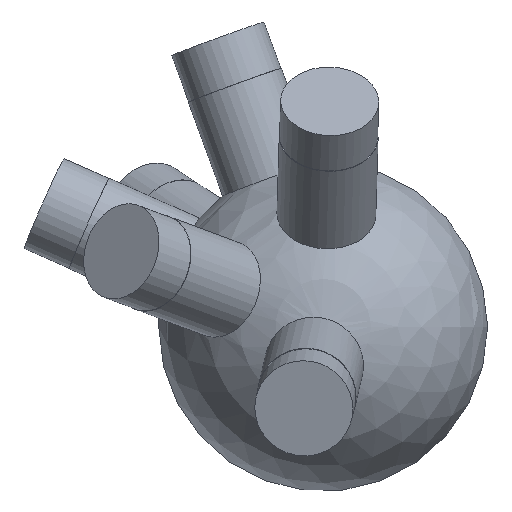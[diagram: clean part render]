
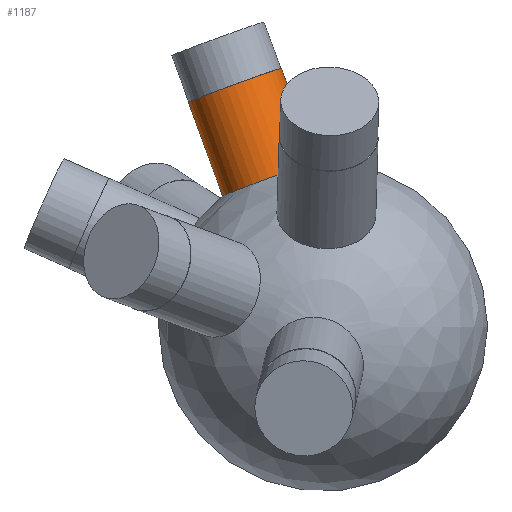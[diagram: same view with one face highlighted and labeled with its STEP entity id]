
A CAD part, top view. The second image highlights one B-rep face of the part: STEP entity #1187.
In plain terms, the highlighted cylindrical face has radius 6 mm (diameter 12 mm), a full revolution.
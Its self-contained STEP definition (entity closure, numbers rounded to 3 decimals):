
#33 = SPHERICAL_SURFACE('',#34,20.);
#34 = AXIS2_PLACEMENT_3D('',#35,#36,#37);
#35 = CARTESIAN_POINT('',(0.,0.,0.));
#36 = DIRECTION('',(0.,0.,1.));
#37 = DIRECTION('',(1.,0.,-0.));
#570 = EDGE_CURVE('',#571,#571,#573,.T.);
#571 = VERTEX_POINT('',#572);
#572 = CARTESIAN_POINT('',(-0.909,19.977,
    -0.308));
#573 = SURFACE_CURVE('',#574,(#579,#641),.PCURVE_S1.);
#574 = CIRCLE('',#575,6.);
#575 = AXIS2_PLACEMENT_3D('',#576,#577,#578);
#576 = CARTESIAN_POINT('',(-6.545,17.918,
    -0.308));
#577 = DIRECTION('',(-0.343,0.939,-0.016)
  );
#578 = DIRECTION('',(-0.939,-0.343,0.
    ));
#579 = PCURVE('',#33,#580);
#580 = DEFINITIONAL_REPRESENTATION('',(#581),#640);
#581 = B_SPLINE_CURVE_WITH_KNOTS('',8,(#582,#583,#584,#585,#586,#587,
    #588,#589,#590,#591,#592,#593,#594,#595,#596,#597,#598,#599,#600,
    #601,#602,#603,#604,#605,#606,#607,#608,#609,#610,#611,#612,#613,
    #614,#615,#616,#617,#618,#619,#620,#621,#622,#623,#624,#625,#626,
    #627,#628,#629,#630,#631,#632,#633,#634,#635,#636,#637,#638,#639),
  .UNSPECIFIED.,.F.,.F.,(9,7,7,7,7,7,7,7,9),(3.142,
    3.927,4.614,5.216,6.268,
    7.057,7.649,8.537,9.425),
  .UNSPECIFIED.);
#582 = CARTESIAN_POINT('',(1.616,-0.015));
#583 = CARTESIAN_POINT('',(1.616,-0.045));
#584 = CARTESIAN_POINT('',(1.619,-0.074));
#585 = CARTESIAN_POINT('',(1.625,-0.103));
#586 = CARTESIAN_POINT('',(1.635,-0.132));
#587 = CARTESIAN_POINT('',(1.647,-0.159));
#588 = CARTESIAN_POINT('',(1.662,-0.184));
#589 = CARTESIAN_POINT('',(1.681,-0.208));
#590 = CARTESIAN_POINT('',(1.72,-0.248));
#591 = CARTESIAN_POINT('',(1.74,-0.265));
#592 = CARTESIAN_POINT('',(1.762,-0.28));
#593 = CARTESIAN_POINT('',(1.785,-0.293));
#594 = CARTESIAN_POINT('',(1.81,-0.303));
#595 = CARTESIAN_POINT('',(1.836,-0.311));
#596 = CARTESIAN_POINT('',(1.863,-0.317));
#597 = CARTESIAN_POINT('',(1.914,-0.322));
#598 = CARTESIAN_POINT('',(1.938,-0.322));
#599 = CARTESIAN_POINT('',(1.961,-0.32));
#600 = CARTESIAN_POINT('',(1.985,-0.316));
#601 = CARTESIAN_POINT('',(2.008,-0.311));
#602 = CARTESIAN_POINT('',(2.03,-0.303));
#603 = CARTESIAN_POINT('',(2.052,-0.293));
#604 = CARTESIAN_POINT('',(2.108,-0.262));
#605 = CARTESIAN_POINT('',(2.14,-0.237));
#606 = CARTESIAN_POINT('',(2.168,-0.207));
#607 = CARTESIAN_POINT('',(2.19,-0.174));
#608 = CARTESIAN_POINT('',(2.208,-0.137));
#609 = CARTESIAN_POINT('',(2.219,-0.099));
#610 = CARTESIAN_POINT('',(2.225,-0.059));
#611 = CARTESIAN_POINT('',(2.226,0.01));
#612 = CARTESIAN_POINT('',(2.223,0.039));
#613 = CARTESIAN_POINT('',(2.217,0.068));
#614 = CARTESIAN_POINT('',(2.208,0.097));
#615 = CARTESIAN_POINT('',(2.196,0.124));
#616 = CARTESIAN_POINT('',(2.18,0.15));
#617 = CARTESIAN_POINT('',(2.162,0.174));
#618 = CARTESIAN_POINT('',(2.126,0.212));
#619 = CARTESIAN_POINT('',(2.109,0.227));
#620 = CARTESIAN_POINT('',(2.091,0.24));
#621 = CARTESIAN_POINT('',(2.071,0.252));
#622 = CARTESIAN_POINT('',(2.051,0.262));
#623 = CARTESIAN_POINT('',(2.029,0.271));
#624 = CARTESIAN_POINT('',(2.007,0.277));
#625 = CARTESIAN_POINT('',(1.951,0.289));
#626 = CARTESIAN_POINT('',(1.916,0.292));
#627 = CARTESIAN_POINT('',(1.881,0.29));
#628 = CARTESIAN_POINT('',(1.846,0.284));
#629 = CARTESIAN_POINT('',(1.812,0.273));
#630 = CARTESIAN_POINT('',(1.781,0.259));
#631 = CARTESIAN_POINT('',(1.752,0.241));
#632 = CARTESIAN_POINT('',(1.7,0.198));
#633 = CARTESIAN_POINT('',(1.677,0.173));
#634 = CARTESIAN_POINT('',(1.657,0.145));
#635 = CARTESIAN_POINT('',(1.641,0.115));
#636 = CARTESIAN_POINT('',(1.629,0.084));
#637 = CARTESIAN_POINT('',(1.621,0.051));
#638 = CARTESIAN_POINT('',(1.616,0.018));
#639 = CARTESIAN_POINT('',(1.616,-0.015));
#640 = ( GEOMETRIC_REPRESENTATION_CONTEXT(2) 
PARAMETRIC_REPRESENTATION_CONTEXT() REPRESENTATION_CONTEXT('2D SPACE',''
  ) );
#641 = PCURVE('',#642,#647);
#642 = CYLINDRICAL_SURFACE('',#643,6.);
#643 = AXIS2_PLACEMENT_3D('',#644,#645,#646);
#644 = CARTESIAN_POINT('',(0.,0.,0.));
#645 = DIRECTION('',(-0.343,0.939,-0.016)
  );
#646 = DIRECTION('',(0.939,0.343,0.));
#647 = DEFINITIONAL_REPRESENTATION('',(#648),#652);
#648 = LINE('',#649,#650);
#649 = CARTESIAN_POINT('',(-3.142,19.079));
#650 = VECTOR('',#651,1.);
#651 = DIRECTION('',(1.,0.));
#652 = ( GEOMETRIC_REPRESENTATION_CONTEXT(2) 
PARAMETRIC_REPRESENTATION_CONTEXT() REPRESENTATION_CONTEXT('2D SPACE',''
  ) );
#1187 = ADVANCED_FACE('',(#1188),#642,.T.);
#1188 = FACE_BOUND('',#1189,.T.);
#1189 = EDGE_LOOP('',(#1190,#1213,#1240,#1241));
#1190 = ORIENTED_EDGE('',*,*,#1191,.T.);
#1191 = EDGE_CURVE('',#571,#1192,#1194,.T.);
#1192 = VERTEX_POINT('',#1193);
#1193 = CARTESIAN_POINT('',(-5.065,31.356,
    -0.504));
#1194 = SEAM_CURVE('',#1195,(#1199,#1206),.PCURVE_S1.);
#1195 = LINE('',#1196,#1197);
#1196 = CARTESIAN_POINT('',(5.636,2.058,
    0.));
#1197 = VECTOR('',#1198,1.);
#1198 = DIRECTION('',(-0.343,0.939,-0.016
    ));
#1199 = PCURVE('',#642,#1200);
#1200 = DEFINITIONAL_REPRESENTATION('',(#1201),#1205);
#1201 = LINE('',#1202,#1203);
#1202 = CARTESIAN_POINT('',(6.283,-0.));
#1203 = VECTOR('',#1204,1.);
#1204 = DIRECTION('',(0.,1.));
#1205 = ( GEOMETRIC_REPRESENTATION_CONTEXT(2) 
PARAMETRIC_REPRESENTATION_CONTEXT() REPRESENTATION_CONTEXT('2D SPACE',''
  ) );
#1206 = PCURVE('',#642,#1207);
#1207 = DEFINITIONAL_REPRESENTATION('',(#1208),#1212);
#1208 = LINE('',#1209,#1210);
#1209 = CARTESIAN_POINT('',(0.,-0.));
#1210 = VECTOR('',#1211,1.);
#1211 = DIRECTION('',(0.,1.));
#1212 = ( GEOMETRIC_REPRESENTATION_CONTEXT(2) 
PARAMETRIC_REPRESENTATION_CONTEXT() REPRESENTATION_CONTEXT('2D SPACE',''
  ) );
#1213 = ORIENTED_EDGE('',*,*,#1214,.F.);
#1214 = EDGE_CURVE('',#1192,#1192,#1215,.T.);
#1215 = SURFACE_CURVE('',#1216,(#1221,#1228),.PCURVE_S1.);
#1216 = CIRCLE('',#1217,6.);
#1217 = AXIS2_PLACEMENT_3D('',#1218,#1219,#1220);
#1218 = CARTESIAN_POINT('',(-10.701,29.297,
    -0.504));
#1219 = DIRECTION('',(-0.343,0.939,-0.016
    ));
#1220 = DIRECTION('',(0.939,0.343,0.)
  );
#1221 = PCURVE('',#642,#1222);
#1222 = DEFINITIONAL_REPRESENTATION('',(#1223),#1227);
#1223 = LINE('',#1224,#1225);
#1224 = CARTESIAN_POINT('',(0.,31.195));
#1225 = VECTOR('',#1226,1.);
#1226 = DIRECTION('',(1.,0.));
#1227 = ( GEOMETRIC_REPRESENTATION_CONTEXT(2) 
PARAMETRIC_REPRESENTATION_CONTEXT() REPRESENTATION_CONTEXT('2D SPACE',''
  ) );
#1228 = PCURVE('',#1229,#1234);
#1229 = PLANE('',#1230);
#1230 = AXIS2_PLACEMENT_3D('',#1231,#1232,#1233);
#1231 = CARTESIAN_POINT('',(-10.701,29.297,
    -0.504));
#1232 = DIRECTION('',(-0.343,0.939,-0.016
    ));
#1233 = DIRECTION('',(0.939,0.343,0.)
  );
#1234 = DEFINITIONAL_REPRESENTATION('',(#1235),#1239);
#1235 = CIRCLE('',#1236,6.);
#1236 = AXIS2_PLACEMENT_2D('',#1237,#1238);
#1237 = CARTESIAN_POINT('',(0.,0.));
#1238 = DIRECTION('',(1.,0.));
#1239 = ( GEOMETRIC_REPRESENTATION_CONTEXT(2) 
PARAMETRIC_REPRESENTATION_CONTEXT() REPRESENTATION_CONTEXT('2D SPACE',''
  ) );
#1240 = ORIENTED_EDGE('',*,*,#1191,.F.);
#1241 = ORIENTED_EDGE('',*,*,#570,.T.);
